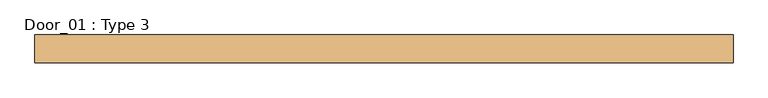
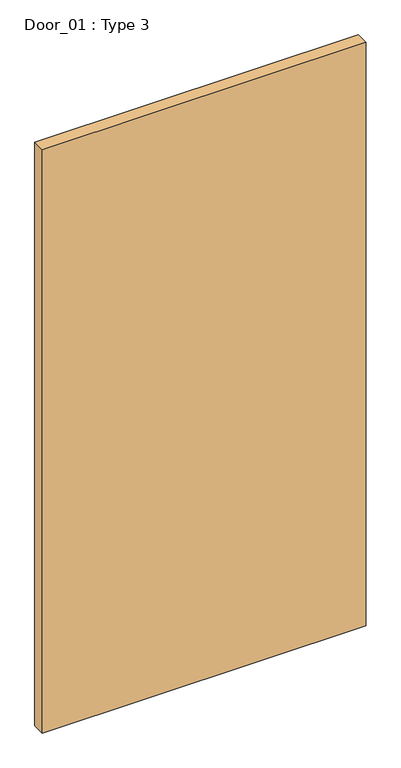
"""IFC4 building model written with IfcOpenShell, lengths in millimetres: door geometry, Door_01 : Type 3."""

from ifc_helpers import new_model, si_unit, origin, origin_with_axes, place, context, project, spatial, polyline, outline, extrude, source, transform, mapped, element, save


def door_01_type_3_5bbf0297(model_context):
    return source(origin(), model_context, "Body", "SweptSolid", [
        extrude(outline(polyline([(625.0, -5.0), (625.0, -55.0), (-625.0, -55.0), (-625.0, -5.0), (625.0, -5.0)])), origin_with_axes(), (0.0, 0.0, 1.0), 2380.0),
    ])


if __name__ == "__main__":
    model = new_model("IFC4")
    model_context = context("Model", 3, world=origin())
    ifc_project = project(units=[si_unit("LENGTHUNIT", "METRE", prefix="MILLI")], contexts=[model_context])
    site = spatial("IfcSite", under=ifc_project)
    building = spatial("IfcBuilding", under=site)
    placement = place(None, origin())
    door_01_type_3_shape = door_01_type_3_5bbf0297(model_context)
    element("IfcDoor", 1, ObjectType="Door_01 : Type 3", at=placement, inside=building, context=model_context, shape_type="MappedRepresentation", body=[
        mapped(door_01_type_3_shape, transform((0.0, 0.0, 0.0), x_axis=(1.0, 0.0, 0.0), y_axis=(0.0, 1.0, 0.0), z_axis=(0.0, 0.0, 1.0))),
    ])
    save(model, "model.ifc")
